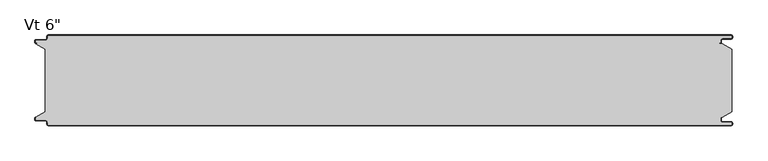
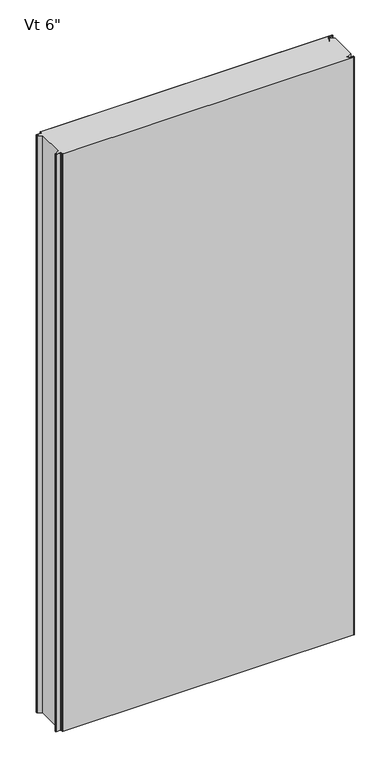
"""IFC4 building model written with IfcOpenShell, lengths in millimetres: plate geometry."""

from ifc_helpers import new_model, si_unit, frame, origin, place, context, project, spatial, polyline, circle_curve, source, transform, mapped, element, save
from ifc_brep_helpers import plane_surface, cylinder_surface, revolved_surface, advanced_brep


def plate_006a10f5(model_context):
    return source(origin(), model_context, "Body", "AdvancedBrep", [
        advanced_brep(
        [(-572.4125501, -149.4227194, 2400.0), (-570.4352761, -151.3999935, 2400.0), (574.5475652, -151.4, 2400.0), (576.5248337, -149.4227315, 2400.0), (576.5248337, -148.3806329, 2400.0), (574.5475652, -146.4033643, 2400.0), (560.3591802, -146.4033643, 2400.0), (557.7713036, -143.8154878, 2400.0), (557.7713036, -139.4950697, 2400.0), (557.1628365, -138.9060762, 2400.0), (554.7857432, -138.9060762, 2400.0), (554.7857432, -137.9066023, 2400.0), (560.2280123, -137.9066023, 2400.0), (576.2625, -128.6490865, 2400.0), (576.2625, -23.7509179, 2400.0), (560.2280123, -14.4933977, 2400.0), (554.7857432, -14.4933977, 2400.0), (554.7857432, -13.4939238, 2400.0), (557.1628365, -13.4939238, 2400.0), (557.7713036, -12.9049303, 2400.0), (557.7713036, -8.5845122, 2400.0), (560.3591802, -5.9966357, 2400.0), (574.5475652, -5.9966357, 2400.0), (576.5248337, -4.0193671, 2400.0), (576.5248337, -2.9772685, 2400.0), (574.5475652, -1.0, 2400.0), (-570.4352761, -1.0, 2400.0), (-572.4125501, -2.9772806, 2400.0), (-572.4125501, -5.2691705, 2400.0), (-576.3898173, -9.2464377, 2400.0), (-591.9862417, -9.2464377, 2400.0), (-592.5741186, -9.8343146, 2400.0), (-592.5741186, -12.9058635, 2400.0), (-591.986242, -13.4937402, 2400.0), (-589.6312064, -13.4937402, 2400.0), (-589.6312064, -14.4937402, 2400.0), (-591.9207851, -14.4937402, 2400.0), (-576.2625, -23.7509135, 2400.0), (-576.2625, -128.6490865, 2400.0), (-591.9207851, -137.9062598, 2400.0), (-589.6312064, -137.9062598, 2400.0), (-589.6312064, -138.9062598, 2400.0), (-591.986242, -138.9062598, 2400.0), (-592.5741186, -139.4941365, 2400.0), (-592.5741186, -142.5656854, 2400.0), (-591.9862417, -143.1535623, 2400.0), (-576.3898173, -143.1535623, 2400.0), (-572.4125501, -147.1308295, 2400.0), (-572.4125501, -149.4227194, 0.0), (-572.4125501, -147.1308295, 0.0), (-576.3898173, -143.1535623, 0.0), (-591.9862417, -143.1535623, 0.0), (-592.5741186, -142.5656854, 0.0), (-592.5741186, -139.4941365, 0.0), (-591.986242, -138.9062598, 0.0), (-589.6312064, -138.9062598, 0.0), (-589.6312064, -137.9062598, 0.0), (-591.9207851, -137.9062598, 0.0), (-576.2625, -128.6490865, 0.0), (-576.2625, -23.7509179, 0.0), (-591.9207851, -14.4937402, 0.0), (-589.6312064, -14.4937402, 0.0), (-589.6312064, -13.4937402, 0.0), (-591.986242, -13.4937402, 0.0), (-592.5741186, -12.9058635, 0.0), (-592.5741186, -9.8343146, 0.0), (-591.9862417, -9.2464377, 0.0), (-576.3898173, -9.2464377, 0.0), (-572.4125501, -5.2691705, 0.0), (-572.4125501, -2.9772806, 0.0), (-570.4352761, -1.0000065, 0.0), (574.5475652, -1.0, 0.0), (576.5248337, -2.9772685, 0.0), (576.5248337, -4.0193671, 0.0), (574.5475652, -5.9966357, 0.0), (560.3591802, -5.9966357, 0.0), (557.7713036, -8.5845122, 0.0), (557.7713036, -12.9049303, 0.0), (557.1628365, -13.4939238, 0.0), (554.7857432, -13.4939238, 0.0), (554.7857432, -14.4933977, 0.0), (560.2280123, -14.4933977, 0.0), (576.2625, -23.7509135, 0.0), (576.2625, -128.6490865, 0.0), (560.2280123, -137.9066023, 0.0), (554.7857432, -137.9066023, 0.0), (554.7857432, -138.9060762, 0.0), (557.1628365, -138.9060762, 0.0), (557.7713036, -139.4950697, 0.0), (557.7713036, -143.8154878, 0.0), (560.3591802, -146.4033643, 0.0), (574.5475652, -146.4033643, 0.0), (576.5248337, -148.3806329, 0.0), (576.5248337, -149.4227315, 0.0), (574.5475652, -151.4, 0.0), (-570.4352761, -151.4, 0.0)],
        [
            (0, 1, circle_curve(frame((-570.4352761, -149.4227194, 2400.0), z_axis=(0.0, 0.0, 1.0), x_axis=(-1.0, 0.0, 0.0)), 1.977274)),
            (1, 2),
            (2, 3, circle_curve(frame((574.5475652, -149.4227315, 2400.0), z_axis=(0.0, 0.0, 1.0), x_axis=(-1.0, 0.0, 0.0)), 1.9772685)),
            (3, 4),
            (4, 5, circle_curve(frame((574.5475652, -148.3806329, 2400.0), z_axis=(0.0, 0.0, 1.0), x_axis=(-1.0, 0.0, 0.0)), 1.9772685)),
            (5, 6),
            (6, 7, circle_curve(frame((560.3591802, -143.8154878, 2400.0), z_axis=(0.0, 0.0, -1.0), x_axis=(-1.0, 0.0, 0.0)), 2.5878765)),
            (7, 8),
            (8, 9, circle_curve(frame((557.1819985, -139.4950697, 2400.0), z_axis=(0.0, 0.0, 1.0), x_axis=(-1.0, 0.0, 0.0)), 0.5893051)),
            (9, 10),
            (10, 11),
            (11, 12),
            (12, 13),
            (13, 14),
            (14, 15),
            (15, 16),
            (16, 17),
            (17, 18),
            (18, 19, circle_curve(frame((557.1819985, -12.9049303, 2400.0), z_axis=(0.0, 0.0, 1.0), x_axis=(0.0, 1.0, 0.0)), 0.5893051)),
            (19, 20),
            (20, 21, circle_curve(frame((560.3591802, -8.5845122, 2400.0), z_axis=(0.0, 0.0, -1.0), x_axis=(0.0, 1.0, 0.0)), 2.5878765)),
            (21, 22),
            (22, 23, circle_curve(frame((574.5475652, -4.0193671, 2400.0), z_axis=(0.0, 0.0, 1.0), x_axis=(0.0, 1.0, 0.0)), 1.9772685)),
            (23, 24),
            (24, 25, circle_curve(frame((574.5475652, -2.9772685, 2400.0), z_axis=(0.0, 0.0, 1.0), x_axis=(0.0, 1.0, 0.0)), 1.9772685)),
            (25, 26),
            (26, 27, circle_curve(frame((-570.4352761, -2.9772806, 2400.0), z_axis=(0.0, 0.0, 1.0), x_axis=(0.0, 1.0, 0.0)), 1.977274)),
            (27, 28),
            (28, 29, circle_curve(frame((-576.3898173, -5.2691705, 2400.0), z_axis=(0.0, 0.0, -1.0), x_axis=(0.0, 1.0, 0.0)), 3.9772671)),
            (29, 30),
            (30, 31, circle_curve(frame((-591.9862417, -9.8343146, 2400.0), z_axis=(0.0, 0.0, 1.0), x_axis=(0.0, 1.0, 0.0)), 0.5878769)),
            (31, 32),
            (32, 33, circle_curve(frame((-591.986242, -12.9058635, 2400.0), z_axis=(0.0, 0.0, 1.0), x_axis=(0.0, 1.0, 0.0)), 0.5878766)),
            (33, 34),
            (34, 35),
            (35, 36),
            (36, 37),
            (37, 38),
            (38, 39),
            (39, 40),
            (40, 41),
            (41, 42),
            (42, 43, circle_curve(frame((-591.986242, -139.4941365, 2400.0), z_axis=(0.0, 0.0, 1.0), x_axis=(-1.0, 0.0, 0.0)), 0.5878766)),
            (43, 44),
            (44, 45, circle_curve(frame((-591.9862417, -142.5656854, 2400.0), z_axis=(0.0, 0.0, 1.0), x_axis=(-1.0, 0.0, 0.0)), 0.5878769)),
            (45, 46),
            (46, 47, circle_curve(frame((-576.3898173, -147.1308295, 2400.0), z_axis=(0.0, 0.0, -1.0), x_axis=(-1.0, 0.0, 0.0)), 3.9772671)),
            (47, 0),
            (48, 49),
            (49, 50, circle_curve(frame((-576.3898173, -147.1308295, 0.0), z_axis=(0.0, 0.0, 1.0), x_axis=(-1.0, 0.0, 0.0)), 3.9772671)),
            (50, 51),
            (51, 52, circle_curve(frame((-591.9862417, -142.5656854, 0.0), z_axis=(0.0, 0.0, -1.0), x_axis=(-1.0, 0.0, 0.0)), 0.5878769)),
            (52, 53),
            (53, 54, circle_curve(frame((-591.986242, -139.4941365, 0.0), z_axis=(0.0, 0.0, -1.0), x_axis=(-1.0, 0.0, 0.0)), 0.5878766)),
            (54, 55),
            (55, 56),
            (56, 57),
            (57, 58),
            (58, 59),
            (59, 60),
            (60, 61),
            (61, 62),
            (62, 63),
            (63, 64, circle_curve(frame((-591.986242, -12.9058635, 0.0), z_axis=(0.0, 0.0, -1.0), x_axis=(0.0, 1.0, 0.0)), 0.5878766)),
            (64, 65),
            (65, 66, circle_curve(frame((-591.9862417, -9.8343146, 0.0), z_axis=(0.0, 0.0, -1.0), x_axis=(0.0, 1.0, 0.0)), 0.5878769)),
            (66, 67),
            (67, 68, circle_curve(frame((-576.3898173, -5.2691705, 0.0), z_axis=(0.0, 0.0, 1.0), x_axis=(0.0, 1.0, 0.0)), 3.9772671)),
            (68, 69),
            (69, 70, circle_curve(frame((-570.4352761, -2.9772806, 0.0), z_axis=(0.0, 0.0, -1.0), x_axis=(0.0, 1.0, 0.0)), 1.977274)),
            (70, 71),
            (71, 72, circle_curve(frame((574.5475652, -2.9772685, 0.0), z_axis=(0.0, 0.0, -1.0), x_axis=(0.0, 1.0, 0.0)), 1.9772685)),
            (72, 73),
            (73, 74, circle_curve(frame((574.5475652, -4.0193671, 0.0), z_axis=(0.0, 0.0, -1.0), x_axis=(0.0, 1.0, 0.0)), 1.9772685)),
            (74, 75),
            (75, 76, circle_curve(frame((560.3591802, -8.5845122, 0.0), z_axis=(0.0, 0.0, 1.0), x_axis=(0.0, 1.0, 0.0)), 2.5878765)),
            (76, 77),
            (77, 78, circle_curve(frame((557.1819985, -12.9049303, 0.0), z_axis=(0.0, 0.0, -1.0), x_axis=(0.0, 1.0, 0.0)), 0.5893051)),
            (78, 79),
            (79, 80),
            (80, 81),
            (81, 82),
            (82, 83),
            (83, 84),
            (84, 85),
            (85, 86),
            (86, 87),
            (87, 88, circle_curve(frame((557.1819985, -139.4950697, 0.0), z_axis=(0.0, 0.0, -1.0), x_axis=(-1.0, 0.0, 0.0)), 0.5893051)),
            (88, 89),
            (89, 90, circle_curve(frame((560.3591802, -143.8154878, 0.0), z_axis=(0.0, 0.0, 1.0), x_axis=(-1.0, 0.0, 0.0)), 2.5878765)),
            (90, 91),
            (91, 92, circle_curve(frame((574.5475652, -148.3806329, 0.0), z_axis=(0.0, 0.0, -1.0), x_axis=(-1.0, 0.0, 0.0)), 1.9772685)),
            (92, 93),
            (93, 94, circle_curve(frame((574.5475652, -149.4227315, 0.0), z_axis=(0.0, 0.0, -1.0), x_axis=(-1.0, 0.0, 0.0)), 1.9772685)),
            (94, 95),
            (95, 48, circle_curve(frame((-570.4352761, -149.4227194, 0.0), z_axis=(0.0, 0.0, -1.0), x_axis=(-1.0, 0.0, 0.0)), 1.977274)),
            (37, 59),
            (58, 38),
            (13, 83),
            (82, 14),
            (47, 49),
            (48, 0),
            (46, 50),
            (45, 51),
            (44, 52),
            (43, 53),
            (42, 54),
            (41, 55),
            (40, 56),
            (39, 57),
            (12, 84),
            (11, 85),
            (10, 86),
            (9, 87),
            (8, 88),
            (7, 89),
            (6, 90),
            (5, 91),
            (4, 92),
            (3, 93),
            (2, 94),
            (1, 95),
            (26, 70),
            (69, 27),
            (25, 71),
            (24, 72),
            (23, 73),
            (22, 74),
            (21, 75),
            (20, 76),
            (19, 77),
            (18, 78),
            (17, 79),
            (16, 80),
            (15, 81),
            (36, 60),
            (35, 61),
            (34, 62),
            (33, 63),
            (32, 64),
            (31, 65),
            (30, 66),
            (29, 67),
            (28, 68),
        ],
        [
            plane_surface(frame((0.0, -151.4, 2400.0), z_axis=(0.0, 0.0, 1.0), x_axis=(0.0, -1.0, 0.0))),
            plane_surface(frame((0.0, -151.4, 0.0), z_axis=(0.0, 0.0, -1.0), x_axis=(0.0, -1.0, 0.0))),
            plane_surface(frame((-576.2625, -128.6490865, 2400.0), z_axis=(-1.0, 0.0, 0.0), x_axis=(0.0, 0.0, -1.0))),
            plane_surface(frame((576.2625, -23.7509179, 2400.0), z_axis=(1.0, 0.0, 0.0), x_axis=(0.0, 0.0, -1.0))),
            plane_surface(frame((-572.4125501, -149.4227194, 2400.0), z_axis=(-1.0, 0.0, 0.0), x_axis=(0.0, 0.0, -1.0))),
            revolved_surface(polyline([(-580.3670844, -147.1308295, 0.0), (-580.3670844, -147.1308295, 2400.0)]), (-576.3898173, -147.1308295, 2400.0), (0.0, 0.0, -1.0)),
            plane_surface(frame((-576.3898173, -143.1535623, 2400.0), z_axis=(0.0, -1.0, 0.0), x_axis=(0.0, 0.0, -1.0))),
            cylinder_surface(frame((-591.9862417, -142.5656854, 2400.0), z_axis=(0.0, 0.0, 1.0), x_axis=(-1.0, 0.0, 0.0)), 0.5878769),
            plane_surface(frame((-592.5741186, -142.5656854, 2400.0), z_axis=(-1.0, 0.0, 0.0), x_axis=(0.0, 0.0, -1.0))),
            cylinder_surface(frame((-591.986242, -139.4941365, 2400.0), z_axis=(0.0, 0.0, 1.0), x_axis=(-1.0, 0.0, 0.0)), 0.5878766),
            plane_surface(frame((-591.986242, -138.9062598, 2400.0), z_axis=(0.0, 1.0, 0.0), x_axis=(0.0, 0.0, -1.0))),
            plane_surface(frame((-589.6312064, -138.9062598, 2400.0), z_axis=(-1.0, 0.0, 0.0), x_axis=(0.0, 0.0, -1.0))),
            plane_surface(frame((-589.6312064, -137.9062598, 2400.0), z_axis=(0.0, -1.0, 0.0), x_axis=(0.0, 0.0, -1.0))),
            plane_surface(frame((-591.9207851, -137.9062598, 2400.0), z_axis=(-0.5089147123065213, 0.860816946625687, 0.0), x_axis=(0.0, 0.0, -1.0))),
            plane_surface(frame((576.2625, -128.6490865, 2400.0), z_axis=(0.500000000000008, -0.866025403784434, 0.0), x_axis=(0.0, 0.0, -1.0))),
            plane_surface(frame((560.2280123, -137.9066023, 2400.0), z_axis=(0.0, -1.0, 0.0), x_axis=(0.0, 0.0, -1.0))),
            plane_surface(frame((554.7857432, -137.9066023, 2400.0), z_axis=(1.0, 0.0, 0.0), x_axis=(0.0, 0.0, -1.0))),
            plane_surface(frame((554.7857432, -138.9060762, 2400.0), z_axis=(0.0, 1.0, 0.0), x_axis=(0.0, 0.0, -1.0))),
            cylinder_surface(frame((557.1819985, -139.4950697, 2400.0), z_axis=(0.0, 0.0, 1.0), x_axis=(-1.0, 0.0, 0.0)), 0.5893051),
            plane_surface(frame((557.7713036, -139.4950697, 2400.0), z_axis=(1.0, 0.0, 0.0), x_axis=(0.0, 0.0, -1.0))),
            revolved_surface(polyline([(557.7713037, -143.8154878, 0.0), (557.7713037, -143.8154878, 2400.0)]), (560.3591802, -143.8154878, 2400.0), (0.0, 0.0, -1.0)),
            plane_surface(frame((560.3591802, -146.4033643, 2400.0), z_axis=(0.0, 1.0, 0.0), x_axis=(0.0, 0.0, -1.0))),
            cylinder_surface(frame((574.5475652, -148.3806329, 2400.0), z_axis=(0.0, 0.0, 1.0), x_axis=(-1.0, 0.0, 0.0)), 1.9772685),
            plane_surface(frame((576.5248337, -148.3806329, 2400.0), z_axis=(1.0, 0.0, 0.0), x_axis=(0.0, 0.0, -1.0))),
            cylinder_surface(frame((574.5475652, -149.4227315, 2400.0), z_axis=(0.0, 0.0, 1.0), x_axis=(-1.0, 0.0, 0.0)), 1.9772685),
            plane_surface(frame((574.5475652, -151.4, 2400.0), z_axis=(0.0, -1.0, 0.0), x_axis=(0.0, 0.0, -1.0))),
            cylinder_surface(frame((-570.4352761, -149.4227194, 2400.0), z_axis=(0.0, 0.0, 1.0), x_axis=(-1.0, 0.0, 0.0)), 1.977274),
            cylinder_surface(frame((-570.4352761, -2.9772806, 2400.0), z_axis=(0.0, 0.0, 1.0), x_axis=(0.0, 1.0, 0.0)), 1.977274),
            plane_surface(frame((-570.4352761, -1.0, 2400.0), z_axis=(0.0, 1.0, 0.0), x_axis=(0.0, 0.0, -1.0))),
            cylinder_surface(frame((574.5475652, -2.9772685, 2400.0), z_axis=(0.0, 0.0, 1.0), x_axis=(0.0, 1.0, 0.0)), 1.9772685),
            plane_surface(frame((576.5248337, -2.9772685, 2400.0), z_axis=(1.0, 0.0, 0.0), x_axis=(0.0, 0.0, -1.0))),
            cylinder_surface(frame((574.5475652, -4.0193671, 2400.0), z_axis=(0.0, 0.0, 1.0), x_axis=(0.0, 1.0, 0.0)), 1.9772685),
            plane_surface(frame((574.5475652, -5.9966357, 2400.0), z_axis=(0.0, -1.0, 0.0), x_axis=(0.0, 0.0, -1.0))),
            revolved_surface(polyline([(560.3591802, -5.996635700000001, 0.0), (560.3591802, -5.996635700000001, 2400.0)]), (560.3591802, -8.5845122, 2400.0), (0.0, 0.0, -1.0)),
            plane_surface(frame((557.7713036, -8.5845122, 2400.0), z_axis=(1.0, 0.0, 0.0), x_axis=(0.0, 0.0, -1.0))),
            cylinder_surface(frame((557.1819985, -12.9049303, 2400.0), z_axis=(0.0, 0.0, 1.0), x_axis=(0.0, 1.0, 0.0)), 0.5893051),
            plane_surface(frame((557.1628365, -13.4939238, 2400.0), z_axis=(0.0, -1.0, 0.0), x_axis=(0.0, 0.0, -1.0))),
            plane_surface(frame((554.7857432, -13.4939238, 2400.0), z_axis=(1.0, 0.0, 0.0), x_axis=(0.0, 0.0, -1.0))),
            plane_surface(frame((554.7857432, -14.4933977, 2400.0), z_axis=(0.0, 1.0, 0.0), x_axis=(0.0, 0.0, -1.0))),
            plane_surface(frame((560.2280123, -14.4933977, 2400.0), z_axis=(0.5000000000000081, 0.866025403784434, 0.0), x_axis=(0.0, 0.0, -1.0))),
            plane_surface(frame((-576.2625, -23.7509135, 2400.0), z_axis=(-0.5089147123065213, -0.860816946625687, 0.0), x_axis=(0.0, 0.0, -1.0))),
            plane_surface(frame((-591.9207851, -14.4937402, 2400.0), z_axis=(0.0, 1.0, 0.0), x_axis=(0.0, 0.0, -1.0))),
            plane_surface(frame((-589.6312064, -14.4937402, 2400.0), z_axis=(-1.0, 0.0, 0.0), x_axis=(0.0, 0.0, -1.0))),
            plane_surface(frame((-589.6312064, -13.4937402, 2400.0), z_axis=(0.0, -1.0, 0.0), x_axis=(0.0, 0.0, -1.0))),
            cylinder_surface(frame((-591.986242, -12.9058635, 2400.0), z_axis=(0.0, 0.0, 1.0), x_axis=(0.0, 1.0, 0.0)), 0.5878766),
            plane_surface(frame((-592.5741186, -12.9058635, 2400.0), z_axis=(-1.0, 0.0, 0.0), x_axis=(0.0, 0.0, -1.0))),
            cylinder_surface(frame((-591.9862417, -9.8343146, 2400.0), z_axis=(0.0, 0.0, 1.0), x_axis=(0.0, 1.0, 0.0)), 0.5878769),
            plane_surface(frame((-591.9862417, -9.2464377, 2400.0), z_axis=(0.0, 1.0, 0.0), x_axis=(0.0, 0.0, -1.0))),
            revolved_surface(polyline([(-576.3898173, -1.2919034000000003, 0.0), (-576.3898173, -1.2919034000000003, 2400.0)]), (-576.3898173, -5.2691705, 2400.0), (0.0, 0.0, -1.0)),
            plane_surface(frame((-572.4125501, -5.2691705, 2400.0), z_axis=(-1.0, 0.0, 0.0), x_axis=(0.0, 0.0, -1.0))),
        ],
        [
            (0, [[1, 2, 3, 4, 5, 6, 7, 8, 9, 10, 11, 12, 13, 14, 15, 16, 17, 18, 19, 20, 21, 22, 23, 24, 25, 26, 27, 28, 29, 30, 31, 32, 33, 34, 35, 36, 37, 38, 39, 40, 41, 42, 43, 44, 45, 46, 47, 48]]),
            (1, [[49, 50, 51, 52, 53, 54, 55, 56, 57, 58, 59, 60, 61, 62, 63, 64, 65, 66, 67, 68, 69, 70, 71, 72, 73, 74, 75, 76, 77, 78, 79, 80, 81, 82, 83, 84, 85, 86, 87, 88, 89, 90, 91, 92, 93, 94, 95, 96]]),
            (2, [[97, -59, 98, -38]]),
            (3, [[99, -83, 100, -14]]),
            (4, [[101, -49, 102, -48]]),
            (5, [[103, -50, -101, -47]]),
            (6, [[104, -51, -103, -46]]),
            (7, [[105, -52, -104, -45]]),
            (8, [[106, -53, -105, -44]]),
            (9, [[107, -54, -106, -43]]),
            (10, [[108, -55, -107, -42]]),
            (11, [[109, -56, -108, -41]]),
            (12, [[110, -57, -109, -40]]),
            (13, [[-98, -58, -110, -39]]),
            (14, [[111, -84, -99, -13]]),
            (15, [[112, -85, -111, -12]]),
            (16, [[113, -86, -112, -11]]),
            (17, [[114, -87, -113, -10]]),
            (18, [[115, -88, -114, -9]]),
            (19, [[116, -89, -115, -8]]),
            (20, [[117, -90, -116, -7]]),
            (21, [[118, -91, -117, -6]]),
            (22, [[119, -92, -118, -5]]),
            (23, [[120, -93, -119, -4]]),
            (24, [[121, -94, -120, -3]]),
            (25, [[122, -95, -121, -2]]),
            (26, [[-102, -96, -122, -1]]),
            (27, [[123, -70, 124, -27]]),
            (28, [[125, -71, -123, -26]]),
            (29, [[126, -72, -125, -25]]),
            (30, [[127, -73, -126, -24]]),
            (31, [[128, -74, -127, -23]]),
            (32, [[129, -75, -128, -22]]),
            (33, [[130, -76, -129, -21]]),
            (34, [[131, -77, -130, -20]]),
            (35, [[132, -78, -131, -19]]),
            (36, [[133, -79, -132, -18]]),
            (37, [[134, -80, -133, -17]]),
            (38, [[135, -81, -134, -16]]),
            (39, [[-100, -82, -135, -15]]),
            (40, [[136, -60, -97, -37]]),
            (41, [[137, -61, -136, -36]]),
            (42, [[138, -62, -137, -35]]),
            (43, [[139, -63, -138, -34]]),
            (44, [[140, -64, -139, -33]]),
            (45, [[141, -65, -140, -32]]),
            (46, [[142, -66, -141, -31]]),
            (47, [[143, -67, -142, -30]]),
            (48, [[144, -68, -143, -29]]),
            (49, [[-124, -69, -144, -28]]),
        ],
    ),
        advanced_brep(
        [(-572.4123937, -2.9776189, 2400.0), (-570.4354837, -1.0007088, 2400.0), (574.550337, -1.0007088, 2400.0), (576.5262182, -2.97659, 2400.0), (576.5262182, -4.019022, 2400.0), (574.5482568, -5.9969834, 2400.0), (560.3590971, -5.9969834, 2400.0), (557.7713971, -8.5846834, 2400.0), (557.7713971, -12.9049158, 2400.0), (557.1628599, -13.4939528, 2400.0), (554.7857432, -13.4939528, 2400.0), (554.7857432, -14.4933977, 2400.0), (557.1304042, -14.4933977, 2400.0), (558.7713036, -12.9049303, 2400.0), (558.7713036, -8.5845122, 2400.0), (560.3591801, -6.9966356, 2400.0), (574.5475652, -6.9966356, 2400.0), (577.5248337, -4.0193671, 2400.0), (577.5248337, -2.9772685, 2400.0), (574.5475652, 0.0, 2400.0), (-570.4352789, 0.0, 2400.0), (-573.4125474, -2.977286, 2400.0), (-573.4125474, -5.2691698, 2400.0), (-576.3898159, -8.2464384, 2400.0), (-591.9862419, -8.2464384, 2400.0), (-593.5741185, -9.8343149, 2400.0), (-593.5741185, -12.9058636, 2400.0), (-591.9862419, -14.4937401, 2400.0), (-589.6312064, -14.4937401, 2400.0), (-589.6312064, -13.4937365, 2400.0), (-591.9862374, -13.4937365, 2400.0), (-592.5741086, -12.9058654, 2400.0), (-592.5741086, -9.834334, 2400.0), (-591.9862514, -9.2464768, 2400.0), (-576.3897391, -9.2464768, 2400.0), (-572.4123937, -5.2691315, 2400.0), (-572.4123937, -2.9776189, 0.0), (-572.4123937, -5.2691315, 0.0), (-576.3897391, -9.2464768, 0.0), (-591.9862514, -9.2464768, 0.0), (-592.5741086, -9.834334, 0.0), (-592.5741086, -12.9058654, 0.0), (-591.9862374, -13.4937365, 0.0), (-589.6312064, -13.4937365, 0.0), (-589.6312064, -14.4937401, 0.0), (-591.9862419, -14.4937401, 0.0), (-593.5741185, -12.9058636, 0.0), (-593.5741185, -9.8343149, 0.0), (-591.9862419, -8.2464384, 0.0), (-576.3898159, -8.2464384, 0.0), (-573.4125474, -5.2691698, 0.0), (-573.4125474, -2.977286, 0.0), (-570.4352789, -1.75e-05, 0.0), (574.5475652, 0.0, 0.0), (577.5248337, -2.9772685, 0.0), (577.5248337, -4.0193671, 0.0), (574.5475652, -6.9966356, 0.0), (560.3591801, -6.9966356, 0.0), (558.7713036, -8.5845122, 0.0), (558.7713036, -12.9049303, 0.0), (557.1304042, -14.4933977, 0.0), (554.7857432, -14.4933977, 0.0), (554.7857432, -13.4939528, 0.0), (557.1628599, -13.4939528, 0.0), (557.7713971, -12.9049158, 0.0), (557.7713971, -8.5846834, 0.0), (560.3590971, -5.9969834, 0.0), (574.5482568, -5.9969834, 0.0), (576.5262182, -4.019022, 0.0), (576.5262182, -2.97659, 0.0), (574.550337, -1.0007088, 0.0), (-570.4354837, -1.0007088, 0.0)],
        [
            (0, 1, circle_curve(frame((-570.4354837, -2.9776189, 2400.0), z_axis=(0.0, 0.0, -1.0), x_axis=(0.0, 1.0, 0.0)), 1.9769101)),
            (1, 2),
            (2, 3, circle_curve(frame((574.550337, -2.97659, 2400.0), z_axis=(0.0, 0.0, -1.0), x_axis=(0.0, 1.0, 0.0)), 1.9758812)),
            (3, 4),
            (4, 5, circle_curve(frame((574.5482568, -4.019022, 2400.0), z_axis=(0.0, 0.0, -1.0), x_axis=(0.0, 1.0, 0.0)), 1.9779614)),
            (5, 6),
            (6, 7, circle_curve(frame((560.3590971, -8.5846834, 2400.0), z_axis=(0.0, 0.0, 1.0), x_axis=(0.0, 1.0, 0.0)), 2.5877)),
            (7, 8),
            (8, 9, circle_curve(frame((557.1820477, -12.9049158, 2400.0), z_axis=(0.0, 0.0, -1.0), x_axis=(0.0, 1.0, 0.0)), 0.5893495)),
            (9, 10),
            (10, 11),
            (11, 12),
            (12, 13, circle_curve(frame((557.1819985, -12.9049303, 2400.0), z_axis=(0.0, 0.0, 1.0), x_axis=(0.0, 1.0, 0.0)), 1.5893051)),
            (13, 14),
            (14, 15, circle_curve(frame((560.3591801, -8.5845122, 2400.0), z_axis=(0.0, 0.0, -1.0), x_axis=(0.0, 1.0, 0.0)), 1.5878765)),
            (15, 16),
            (16, 17, circle_curve(frame((574.5475652, -4.0193671, 2400.0), z_axis=(0.0, 0.0, 1.0), x_axis=(0.0, 1.0, 0.0)), 2.9772685)),
            (17, 18),
            (18, 19, circle_curve(frame((574.5475652, -2.9772685, 2400.0), z_axis=(0.0, 0.0, 1.0), x_axis=(0.0, 1.0, 0.0)), 2.9772685)),
            (19, 20),
            (20, 21, circle_curve(frame((-570.4352789, -2.977286, 2400.0), z_axis=(0.0, 0.0, 1.0), x_axis=(0.0, 1.0, 0.0)), 2.9772685)),
            (21, 22),
            (22, 23, circle_curve(frame((-576.3898159, -5.2691698, 2400.0), z_axis=(0.0, 0.0, -1.0), x_axis=(0.0, 1.0, 0.0)), 2.9772685)),
            (23, 24),
            (24, 25, circle_curve(frame((-591.9862419, -9.8343149, 2400.0), z_axis=(0.0, 0.0, 1.0), x_axis=(0.0, 1.0, 0.0)), 1.5878765)),
            (25, 26),
            (26, 27, circle_curve(frame((-591.9862419, -12.9058636, 2400.0), z_axis=(0.0, 0.0, 1.0), x_axis=(0.0, 1.0, 0.0)), 1.5878765)),
            (27, 28),
            (28, 29),
            (29, 30),
            (30, 31, circle_curve(frame((-591.9862374, -12.9058654, 2400.0), z_axis=(0.0, 0.0, -1.0), x_axis=(0.0, 1.0, 0.0)), 0.5878711)),
            (31, 32),
            (32, 33, circle_curve(frame((-591.9862514, -9.834334, 2400.0), z_axis=(0.0, 0.0, -1.0), x_axis=(0.0, 1.0, 0.0)), 0.5878572)),
            (33, 34),
            (34, 35, circle_curve(frame((-576.3897391, -5.2691315, 2400.0), z_axis=(0.0, 0.0, 1.0), x_axis=(0.0, 1.0, 0.0)), 3.9773454)),
            (35, 0),
            (36, 37),
            (37, 38, circle_curve(frame((-576.3897391, -5.2691315, 0.0), z_axis=(0.0, 0.0, -1.0), x_axis=(0.0, 1.0, 0.0)), 3.9773454)),
            (38, 39),
            (39, 40, circle_curve(frame((-591.9862514, -9.834334, 0.0), z_axis=(0.0, 0.0, 1.0), x_axis=(0.0, 1.0, 0.0)), 0.5878572)),
            (40, 41),
            (41, 42, circle_curve(frame((-591.9862374, -12.9058654, 0.0), z_axis=(0.0, 0.0, 1.0), x_axis=(0.0, 1.0, 0.0)), 0.5878711)),
            (42, 43),
            (43, 44),
            (44, 45),
            (45, 46, circle_curve(frame((-591.9862419, -12.9058636, 0.0), z_axis=(0.0, 0.0, -1.0), x_axis=(0.0, 1.0, 0.0)), 1.5878765)),
            (46, 47),
            (47, 48, circle_curve(frame((-591.9862419, -9.8343149, 0.0), z_axis=(0.0, 0.0, -1.0), x_axis=(0.0, 1.0, 0.0)), 1.5878765)),
            (48, 49),
            (49, 50, circle_curve(frame((-576.3898159, -5.2691698, 0.0), z_axis=(0.0, 0.0, 1.0), x_axis=(0.0, 1.0, 0.0)), 2.9772685)),
            (50, 51),
            (51, 52, circle_curve(frame((-570.4352789, -2.977286, 0.0), z_axis=(0.0, 0.0, -1.0), x_axis=(0.0, 1.0, 0.0)), 2.9772685)),
            (52, 53),
            (53, 54, circle_curve(frame((574.5475652, -2.9772685, 0.0), z_axis=(0.0, 0.0, -1.0), x_axis=(0.0, 1.0, 0.0)), 2.9772685)),
            (54, 55),
            (55, 56, circle_curve(frame((574.5475652, -4.0193671, 0.0), z_axis=(0.0, 0.0, -1.0), x_axis=(0.0, 1.0, 0.0)), 2.9772685)),
            (56, 57),
            (57, 58, circle_curve(frame((560.3591801, -8.5845122, 0.0), z_axis=(0.0, 0.0, 1.0), x_axis=(0.0, 1.0, 0.0)), 1.5878765)),
            (58, 59),
            (59, 60, circle_curve(frame((557.1819985, -12.9049303, 0.0), z_axis=(0.0, 0.0, -1.0), x_axis=(0.0, 1.0, 0.0)), 1.5893051)),
            (60, 61),
            (61, 62),
            (62, 63),
            (63, 64, circle_curve(frame((557.1820477, -12.9049158, 0.0), z_axis=(0.0, 0.0, 1.0), x_axis=(0.0, 1.0, 0.0)), 0.5893495)),
            (64, 65),
            (65, 66, circle_curve(frame((560.3590971, -8.5846834, 0.0), z_axis=(0.0, 0.0, -1.0), x_axis=(0.0, 1.0, 0.0)), 2.5877)),
            (66, 67),
            (67, 68, circle_curve(frame((574.5482568, -4.019022, 0.0), z_axis=(0.0, 0.0, 1.0), x_axis=(0.0, 1.0, 0.0)), 1.9779614)),
            (68, 69),
            (69, 70, circle_curve(frame((574.550337, -2.97659, 0.0), z_axis=(0.0, 0.0, 1.0), x_axis=(0.0, 1.0, 0.0)), 1.9758812)),
            (70, 71),
            (71, 36, circle_curve(frame((-570.4354837, -2.9776189, 0.0), z_axis=(0.0, 0.0, 1.0), x_axis=(0.0, 1.0, 0.0)), 1.9769101)),
            (35, 37),
            (36, 0),
            (34, 38),
            (33, 39),
            (32, 40),
            (31, 41),
            (30, 42),
            (29, 43),
            (28, 44),
            (27, 45),
            (26, 46),
            (25, 47),
            (24, 48),
            (23, 49),
            (22, 50),
            (21, 51),
            (20, 52),
            (19, 53),
            (18, 54),
            (17, 55),
            (16, 56),
            (15, 57),
            (14, 58),
            (13, 59),
            (12, 60),
            (11, 61),
            (10, 62),
            (9, 63),
            (8, 64),
            (7, 65),
            (6, 66),
            (5, 67),
            (4, 68),
            (3, 69),
            (2, 70),
            (1, 71),
        ],
        [
            plane_surface(frame((0.0, 0.0, 2400.0), z_axis=(0.0, 0.0, 1.0), x_axis=(0.0, 1.0, 0.0))),
            plane_surface(frame((0.0, 0.0, 0.0), z_axis=(0.0, 0.0, -1.0), x_axis=(0.0, 1.0, 0.0))),
            plane_surface(frame((-572.4123937, -2.9776189, 2400.0), z_axis=(1.0, 0.0, 0.0), x_axis=(0.0, 0.0, -1.0))),
            cylinder_surface(frame((-576.3897391, -5.2691315, 2400.0), z_axis=(0.0, 0.0, 1.0), x_axis=(0.0, 1.0, 0.0)), 3.9773454),
            plane_surface(frame((-576.3897391, -9.2464768, 2400.0), z_axis=(0.0, -1.0, 0.0), x_axis=(0.0, 0.0, -1.0))),
            revolved_surface(polyline([(-591.9862514, -9.2464768, 0.0), (-591.9862514, -9.2464768, 2400.0)]), (-591.9862514, -9.834334, 2400.0), (0.0, 0.0, -1.0)),
            plane_surface(frame((-592.5741086, -9.834334, 2400.0), z_axis=(1.0, 0.0, 0.0), x_axis=(0.0, 0.0, -1.0))),
            revolved_surface(polyline([(-591.9862374, -12.3179943, 0.0), (-591.9862374, -12.3179943, 2400.0)]), (-591.9862374, -12.9058654, 2400.0), (0.0, 0.0, -1.0)),
            plane_surface(frame((-591.9862374, -13.4937365, 2400.0), z_axis=(0.0, 1.0, 0.0), x_axis=(0.0, 0.0, -1.0))),
            plane_surface(frame((-589.6312064, -13.4937365, 2400.0), z_axis=(1.0, 0.0, 0.0), x_axis=(0.0, 0.0, -1.0))),
            plane_surface(frame((-589.6312064, -14.4937401, 2400.0), z_axis=(0.0, -1.0, 0.0), x_axis=(0.0, 0.0, -1.0))),
            cylinder_surface(frame((-591.9862419, -12.9058636, 2400.0), z_axis=(0.0, 0.0, 1.0), x_axis=(0.0, 1.0, 0.0)), 1.5878765),
            plane_surface(frame((-593.5741185, -12.9058636, 2400.0), z_axis=(-1.0, 0.0, 0.0), x_axis=(0.0, 0.0, -1.0))),
            cylinder_surface(frame((-591.9862419, -9.8343149, 2400.0), z_axis=(0.0, 0.0, 1.0), x_axis=(0.0, 1.0, 0.0)), 1.5878765),
            plane_surface(frame((-591.9862419, -8.2464384, 2400.0), z_axis=(0.0, 1.0, 0.0), x_axis=(0.0, 0.0, -1.0))),
            revolved_surface(polyline([(-576.3898159, -2.2919013, 0.0), (-576.3898159, -2.2919013, 2400.0)]), (-576.3898159, -5.2691698, 2400.0), (0.0, 0.0, -1.0)),
            plane_surface(frame((-573.4125474, -5.2691698, 2400.0), z_axis=(-1.0, 0.0, 0.0), x_axis=(0.0, 0.0, -1.0))),
            cylinder_surface(frame((-570.4352789, -2.977286, 2400.0), z_axis=(0.0, 0.0, 1.0), x_axis=(0.0, 1.0, 0.0)), 2.9772685),
            plane_surface(frame((-570.4352789, 0.0, 2400.0), z_axis=(0.0, 1.0, 0.0), x_axis=(0.0, 0.0, -1.0))),
            cylinder_surface(frame((574.5475652, -2.9772685, 2400.0), z_axis=(0.0, 0.0, 1.0), x_axis=(0.0, 1.0, 0.0)), 2.9772685),
            plane_surface(frame((577.5248337, -2.9772685, 2400.0), z_axis=(1.0, 0.0, 0.0), x_axis=(0.0, 0.0, -1.0))),
            cylinder_surface(frame((574.5475652, -4.0193671, 2400.0), z_axis=(0.0, 0.0, 1.0), x_axis=(0.0, 1.0, 0.0)), 2.9772685),
            plane_surface(frame((574.5475652, -6.9966356, 2400.0), z_axis=(0.0, -1.0, 0.0), x_axis=(0.0, 0.0, -1.0))),
            revolved_surface(polyline([(560.3591801, -6.996635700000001, 0.0), (560.3591801, -6.996635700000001, 2400.0)]), (560.3591801, -8.5845122, 2400.0), (0.0, 0.0, -1.0)),
            plane_surface(frame((558.7713036, -8.5845122, 2400.0), z_axis=(1.0, 0.0, 0.0), x_axis=(0.0, 0.0, -1.0))),
            cylinder_surface(frame((557.1819985, -12.9049303, 2400.0), z_axis=(0.0, 0.0, 1.0), x_axis=(0.0, 1.0, 0.0)), 1.5893051),
            plane_surface(frame((557.1304042, -14.4933977, 2400.0), z_axis=(0.0, -1.0, 0.0), x_axis=(0.0, 0.0, -1.0))),
            plane_surface(frame((554.7857432, -14.4933977, 2400.0), z_axis=(-1.0, 0.0, 0.0), x_axis=(0.0, 0.0, -1.0))),
            plane_surface(frame((554.7857432, -13.4939528, 2400.0), z_axis=(0.0, 1.0, 0.0), x_axis=(0.0, 0.0, -1.0))),
            revolved_surface(polyline([(557.1820477, -12.3155663, 0.0), (557.1820477, -12.3155663, 2400.0)]), (557.1820477, -12.9049158, 2400.0), (0.0, 0.0, -1.0)),
            plane_surface(frame((557.7713971, -12.9049158, 2400.0), z_axis=(-1.0, 0.0, 0.0), x_axis=(0.0, 0.0, -1.0))),
            cylinder_surface(frame((560.3590971, -8.5846834, 2400.0), z_axis=(0.0, 0.0, 1.0), x_axis=(0.0, 1.0, 0.0)), 2.5877),
            plane_surface(frame((560.3590971, -5.9969834, 2400.0), z_axis=(0.0, 1.0, 0.0), x_axis=(0.0, 0.0, -1.0))),
            revolved_surface(polyline([(574.5482568, -2.0410606, 0.0), (574.5482568, -2.0410606, 2400.0)]), (574.5482568, -4.019022, 2400.0), (0.0, 0.0, -1.0)),
            plane_surface(frame((576.5262182, -4.019022, 2400.0), z_axis=(-1.0, 0.0, 0.0), x_axis=(0.0, 0.0, -1.0))),
            revolved_surface(polyline([(574.550337, -1.0007088, 0.0), (574.550337, -1.0007088, 2400.0)]), (574.550337, -2.97659, 2400.0), (0.0, 0.0, -1.0)),
            plane_surface(frame((574.550337, -1.0007088, 2400.0), z_axis=(0.0, -1.0, 0.0), x_axis=(0.0, 0.0, -1.0))),
            revolved_surface(polyline([(-570.4354837, -1.0007088, 0.0), (-570.4354837, -1.0007088, 2400.0)]), (-570.4354837, -2.9776189, 2400.0), (0.0, 0.0, -1.0)),
        ],
        [
            (0, [[1, 2, 3, 4, 5, 6, 7, 8, 9, 10, 11, 12, 13, 14, 15, 16, 17, 18, 19, 20, 21, 22, 23, 24, 25, 26, 27, 28, 29, 30, 31, 32, 33, 34, 35, 36]]),
            (1, [[37, 38, 39, 40, 41, 42, 43, 44, 45, 46, 47, 48, 49, 50, 51, 52, 53, 54, 55, 56, 57, 58, 59, 60, 61, 62, 63, 64, 65, 66, 67, 68, 69, 70, 71, 72]]),
            (2, [[73, -37, 74, -36]]),
            (3, [[75, -38, -73, -35]]),
            (4, [[76, -39, -75, -34]]),
            (5, [[77, -40, -76, -33]]),
            (6, [[78, -41, -77, -32]]),
            (7, [[79, -42, -78, -31]]),
            (8, [[80, -43, -79, -30]]),
            (9, [[81, -44, -80, -29]]),
            (10, [[82, -45, -81, -28]]),
            (11, [[83, -46, -82, -27]]),
            (12, [[84, -47, -83, -26]]),
            (13, [[85, -48, -84, -25]]),
            (14, [[86, -49, -85, -24]]),
            (15, [[87, -50, -86, -23]]),
            (16, [[88, -51, -87, -22]]),
            (17, [[89, -52, -88, -21]]),
            (18, [[90, -53, -89, -20]]),
            (19, [[91, -54, -90, -19]]),
            (20, [[92, -55, -91, -18]]),
            (21, [[93, -56, -92, -17]]),
            (22, [[94, -57, -93, -16]]),
            (23, [[95, -58, -94, -15]]),
            (24, [[96, -59, -95, -14]]),
            (25, [[97, -60, -96, -13]]),
            (26, [[98, -61, -97, -12]]),
            (27, [[99, -62, -98, -11]]),
            (28, [[100, -63, -99, -10]]),
            (29, [[101, -64, -100, -9]]),
            (30, [[102, -65, -101, -8]]),
            (31, [[103, -66, -102, -7]]),
            (32, [[104, -67, -103, -6]]),
            (33, [[105, -68, -104, -5]]),
            (34, [[106, -69, -105, -4]]),
            (35, [[107, -70, -106, -3]]),
            (36, [[108, -71, -107, -2]]),
            (37, [[-74, -72, -108, -1]]),
        ],
    ),
        advanced_brep(
        [(-572.4123937, -149.4223811, 2400.0), (-572.4123937, -147.1308685, 2400.0), (-576.3897391, -143.1535232, 2400.0), (-591.9862514, -143.1535232, 2400.0), (-592.5741086, -142.565666, 2400.0), (-592.5741086, -139.4941346, 2400.0), (-591.9862374, -138.9062635, 2400.0), (-589.6312064, -138.9062635, 2400.0), (-589.6312064, -137.9062599, 2400.0), (-591.9862419, -137.9062599, 2400.0), (-593.5741185, -139.4941364, 2400.0), (-593.5741185, -142.5656851, 2400.0), (-591.9862419, -144.1535616, 2400.0), (-576.3898159, -144.1535616, 2400.0), (-573.4125474, -147.1308302, 2400.0), (-573.4125474, -149.422714, 2400.0), (-570.4352789, -152.3999825, 2400.0), (574.5475652, -152.4, 2400.0), (577.5248337, -149.4227315, 2400.0), (577.5248337, -148.3806329, 2400.0), (574.5475652, -145.4033644, 2400.0), (560.3591801, -145.4033644, 2400.0), (558.7713036, -143.8154878, 2400.0), (558.7713036, -139.4950697, 2400.0), (557.1304042, -137.9066023, 2400.0), (554.7857432, -137.9066023, 2400.0), (554.7857432, -138.9060472, 2400.0), (557.1628599, -138.9060472, 2400.0), (557.7713971, -139.4950842, 2400.0), (557.7713971, -143.8153166, 2400.0), (560.3590971, -146.4030166, 2400.0), (574.5482568, -146.4030166, 2400.0), (576.5262182, -148.380978, 2400.0), (576.5262182, -149.42341, 2400.0), (574.550337, -151.3992912, 2400.0), (-570.4354837, -151.3992912, 2400.0), (-572.4123937, -149.4223811, 0.0), (-570.4354837, -151.3992912, 0.0), (574.550337, -151.3992912, 0.0), (576.5262182, -149.42341, 0.0), (576.5262182, -148.380978, 0.0), (574.5482568, -146.4030166, 0.0), (560.3590971, -146.4030166, 0.0), (557.7713971, -143.8153166, 0.0), (557.7713971, -139.4950842, 0.0), (557.1628599, -138.9060472, 0.0), (554.7857432, -138.9060472, 0.0), (554.7857432, -137.9066023, 0.0), (557.1304042, -137.9066023, 0.0), (558.7713036, -139.4950697, 0.0), (558.7713036, -143.8154878, 0.0), (560.3591801, -145.4033644, 0.0), (574.5475652, -145.4033644, 0.0), (577.5248337, -148.3806329, 0.0), (577.5248337, -149.4227315, 0.0), (574.5475652, -152.4, 0.0), (-570.4352789, -152.4, 0.0), (-573.4125474, -149.422714, 0.0), (-573.4125474, -147.1308302, 0.0), (-576.3898159, -144.1535616, 0.0), (-591.9862419, -144.1535616, 0.0), (-593.5741185, -142.5656851, 0.0), (-593.5741185, -139.4941364, 0.0), (-591.9862419, -137.9062599, 0.0), (-589.6312064, -137.9062599, 0.0), (-589.6312064, -138.9062635, 0.0), (-591.9862374, -138.9062635, 0.0), (-592.5741086, -139.4941346, 0.0), (-592.5741086, -142.565666, 0.0), (-591.9862514, -143.1535232, 0.0), (-576.3897391, -143.1535232, 0.0), (-572.4123937, -147.1308685, 0.0)],
        [
            (0, 1),
            (1, 2, circle_curve(frame((-576.3897391, -147.1308685, 2400.0), z_axis=(0.0, 0.0, 1.0), x_axis=(-1.0, 0.0, 0.0)), 3.9773454)),
            (2, 3),
            (3, 4, circle_curve(frame((-591.9862514, -142.565666, 2400.0), z_axis=(0.0, 0.0, -1.0), x_axis=(-1.0, 0.0, 0.0)), 0.5878572)),
            (4, 5),
            (5, 6, circle_curve(frame((-591.9862374, -139.4941346, 2400.0), z_axis=(0.0, 0.0, -1.0), x_axis=(-1.0, 0.0, 0.0)), 0.5878711)),
            (6, 7),
            (7, 8),
            (8, 9),
            (9, 10, circle_curve(frame((-591.9862419, -139.4941364, 2400.0), z_axis=(0.0, 0.0, 1.0), x_axis=(-1.0, 0.0, 0.0)), 1.5878765)),
            (10, 11),
            (11, 12, circle_curve(frame((-591.9862419, -142.5656851, 2400.0), z_axis=(0.0, 0.0, 1.0), x_axis=(-1.0, 0.0, 0.0)), 1.5878765)),
            (12, 13),
            (13, 14, circle_curve(frame((-576.3898159, -147.1308302, 2400.0), z_axis=(0.0, 0.0, -1.0), x_axis=(-1.0, 0.0, 0.0)), 2.9772685)),
            (14, 15),
            (15, 16, circle_curve(frame((-570.4352789, -149.422714, 2400.0), z_axis=(0.0, 0.0, 1.0), x_axis=(-1.0, 0.0, 0.0)), 2.9772685)),
            (16, 17),
            (17, 18, circle_curve(frame((574.5475652, -149.4227315, 2400.0), z_axis=(0.0, 0.0, 1.0), x_axis=(-1.0, 0.0, 0.0)), 2.9772685)),
            (18, 19),
            (19, 20, circle_curve(frame((574.5475652, -148.3806329, 2400.0), z_axis=(0.0, 0.0, 1.0), x_axis=(-1.0, 0.0, 0.0)), 2.9772685)),
            (20, 21),
            (21, 22, circle_curve(frame((560.3591801, -143.8154878, 2400.0), z_axis=(0.0, 0.0, -1.0), x_axis=(-1.0, 0.0, 0.0)), 1.5878765)),
            (22, 23),
            (23, 24, circle_curve(frame((557.1819985, -139.4950697, 2400.0), z_axis=(0.0, 0.0, 1.0), x_axis=(-1.0, 0.0, 0.0)), 1.5893051)),
            (24, 25),
            (25, 26),
            (26, 27),
            (27, 28, circle_curve(frame((557.1820477, -139.4950842, 2400.0), z_axis=(0.0, 0.0, -1.0), x_axis=(-1.0, 0.0, 0.0)), 0.5893495)),
            (28, 29),
            (29, 30, circle_curve(frame((560.3590971, -143.8153166, 2400.0), z_axis=(0.0, 0.0, 1.0), x_axis=(-1.0, 0.0, 0.0)), 2.5877)),
            (30, 31),
            (31, 32, circle_curve(frame((574.5482568, -148.380978, 2400.0), z_axis=(0.0, 0.0, -1.0), x_axis=(-1.0, 0.0, 0.0)), 1.9779614)),
            (32, 33),
            (33, 34, circle_curve(frame((574.550337, -149.42341, 2400.0), z_axis=(0.0, 0.0, -1.0), x_axis=(-1.0, 0.0, 0.0)), 1.9758812)),
            (34, 35),
            (35, 0, circle_curve(frame((-570.4354837, -149.4223811, 2400.0), z_axis=(0.0, 0.0, -1.0), x_axis=(-1.0, 0.0, 0.0)), 1.9769101)),
            (36, 37, circle_curve(frame((-570.4354837, -149.4223811, 0.0), z_axis=(0.0, 0.0, 1.0), x_axis=(-1.0, 0.0, 0.0)), 1.9769101)),
            (37, 38),
            (38, 39, circle_curve(frame((574.550337, -149.42341, 0.0), z_axis=(0.0, 0.0, 1.0), x_axis=(-1.0, 0.0, 0.0)), 1.9758812)),
            (39, 40),
            (40, 41, circle_curve(frame((574.5482568, -148.380978, 0.0), z_axis=(0.0, 0.0, 1.0), x_axis=(-1.0, 0.0, 0.0)), 1.9779614)),
            (41, 42),
            (42, 43, circle_curve(frame((560.3590971, -143.8153166, 0.0), z_axis=(0.0, 0.0, -1.0), x_axis=(-1.0, 0.0, 0.0)), 2.5877)),
            (43, 44),
            (44, 45, circle_curve(frame((557.1820477, -139.4950842, 0.0), z_axis=(0.0, 0.0, 1.0), x_axis=(-1.0, 0.0, 0.0)), 0.5893495)),
            (45, 46),
            (46, 47),
            (47, 48),
            (48, 49, circle_curve(frame((557.1819985, -139.4950697, 0.0), z_axis=(0.0, 0.0, -1.0), x_axis=(-1.0, 0.0, 0.0)), 1.5893051)),
            (49, 50),
            (50, 51, circle_curve(frame((560.3591801, -143.8154878, 0.0), z_axis=(0.0, 0.0, 1.0), x_axis=(-1.0, 0.0, 0.0)), 1.5878765)),
            (51, 52),
            (52, 53, circle_curve(frame((574.5475652, -148.3806329, 0.0), z_axis=(0.0, 0.0, -1.0), x_axis=(-1.0, 0.0, 0.0)), 2.9772685)),
            (53, 54),
            (54, 55, circle_curve(frame((574.5475652, -149.4227315, 0.0), z_axis=(0.0, 0.0, -1.0), x_axis=(-1.0, 0.0, 0.0)), 2.9772685)),
            (55, 56),
            (56, 57, circle_curve(frame((-570.4352789, -149.422714, 0.0), z_axis=(0.0, 0.0, -1.0), x_axis=(-1.0, 0.0, 0.0)), 2.9772685)),
            (57, 58),
            (58, 59, circle_curve(frame((-576.3898159, -147.1308302, 0.0), z_axis=(0.0, 0.0, 1.0), x_axis=(-1.0, 0.0, 0.0)), 2.9772685)),
            (59, 60),
            (60, 61, circle_curve(frame((-591.9862419, -142.5656851, 0.0), z_axis=(0.0, 0.0, -1.0), x_axis=(-1.0, 0.0, 0.0)), 1.5878765)),
            (61, 62),
            (62, 63, circle_curve(frame((-591.9862419, -139.4941364, 0.0), z_axis=(0.0, 0.0, -1.0), x_axis=(-1.0, 0.0, 0.0)), 1.5878765)),
            (63, 64),
            (64, 65),
            (65, 66),
            (66, 67, circle_curve(frame((-591.9862374, -139.4941346, 0.0), z_axis=(0.0, 0.0, 1.0), x_axis=(-1.0, 0.0, 0.0)), 0.5878711)),
            (67, 68),
            (68, 69, circle_curve(frame((-591.9862514, -142.565666, 0.0), z_axis=(0.0, 0.0, 1.0), x_axis=(-1.0, 0.0, 0.0)), 0.5878572)),
            (69, 70),
            (70, 71, circle_curve(frame((-576.3897391, -147.1308685, 0.0), z_axis=(0.0, 0.0, -1.0), x_axis=(-1.0, 0.0, 0.0)), 3.9773454)),
            (71, 36),
            (23, 49),
            (48, 24),
            (22, 50),
            (21, 51),
            (20, 52),
            (19, 53),
            (17, 55),
            (54, 18),
            (32, 40),
            (39, 33),
            (38, 34),
            (16, 56),
            (37, 35),
            (36, 0),
            (71, 1),
            (70, 2),
            (69, 3),
            (4, 68),
            (67, 5),
            (66, 6),
            (65, 7),
            (64, 8),
            (63, 9),
            (62, 10),
            (61, 11),
            (60, 12),
            (59, 13),
            (58, 14),
            (57, 15),
            (31, 41),
            (30, 42),
            (29, 43),
            (28, 44),
            (27, 45),
            (26, 46),
            (25, 47),
        ],
        [
            plane_surface(frame((0.0, -152.4, 2400.0), z_axis=(0.0, 0.0, 1.0), x_axis=(0.0, -1.0, 0.0))),
            plane_surface(frame((0.0, -152.4, 0.0), z_axis=(0.0, 0.0, -1.0), x_axis=(0.0, -1.0, 0.0))),
            cylinder_surface(frame((557.1819985, -139.4950697, 2400.0), z_axis=(0.0, 0.0, 1.0), x_axis=(-1.0, 0.0, 0.0)), 1.5893051),
            plane_surface(frame((558.7713036, -139.4950697, 2400.0), z_axis=(1.0, 0.0, 0.0), x_axis=(0.0, 0.0, -1.0))),
            revolved_surface(polyline([(558.7713036, -143.8154878, 0.0), (558.7713036, -143.8154878, 2400.0)]), (560.3591801, -143.8154878, 2400.0), (0.0, 0.0, -1.0)),
            plane_surface(frame((560.3591801, -145.4033644, 2400.0), z_axis=(0.0, 1.0, 0.0), x_axis=(0.0, 0.0, -1.0))),
            cylinder_surface(frame((574.5475652, -148.3806329, 2400.0), z_axis=(0.0, 0.0, 1.0), x_axis=(-1.0, 0.0, 0.0)), 2.9772685),
            cylinder_surface(frame((574.5475652, -149.4227315, 2400.0), z_axis=(0.0, 0.0, 1.0), x_axis=(-1.0, 0.0, 0.0)), 2.9772685),
            plane_surface(frame((576.5262182, -149.42341, 2400.0), z_axis=(-1.0, 0.0, 0.0), x_axis=(0.0, 0.0, -1.0))),
            plane_surface(frame((577.5248337, -148.3806329, 2400.0), z_axis=(1.0, 0.0, 0.0), x_axis=(0.0, 0.0, -1.0))),
            revolved_surface(polyline([(572.5744558, -149.42341, 0.0), (572.5744558, -149.42341, 2400.0)]), (574.550337, -149.42341, 2400.0), (0.0, 0.0, -1.0)),
            plane_surface(frame((574.5475652, -152.4, 2400.0), z_axis=(0.0, -1.0, 0.0), x_axis=(0.0, 0.0, -1.0))),
            plane_surface(frame((-570.4354837, -151.3992912, 2400.0), z_axis=(0.0, 1.0, 0.0), x_axis=(0.0, 0.0, -1.0))),
            revolved_surface(polyline([(-572.4123938, -149.4223811, 0.0), (-572.4123938, -149.4223811, 2400.0)]), (-570.4354837, -149.4223811, 2400.0), (0.0, 0.0, -1.0)),
            plane_surface(frame((-572.4123937, -147.1308685, 2400.0), z_axis=(1.0, 0.0, 0.0), x_axis=(0.0, 0.0, -1.0))),
            cylinder_surface(frame((-576.3897391, -147.1308685, 2400.0), z_axis=(0.0, 0.0, 1.0), x_axis=(-1.0, 0.0, 0.0)), 3.9773454),
            plane_surface(frame((-591.9862514, -143.1535232, 2400.0), z_axis=(0.0, 1.0, 0.0), x_axis=(0.0, 0.0, -1.0))),
            plane_surface(frame((-592.5741086, -139.4941346, 2400.0), z_axis=(1.0, 0.0, 0.0), x_axis=(0.0, 0.0, -1.0))),
            revolved_surface(polyline([(-592.5741085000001, -139.4941346, 0.0), (-592.5741085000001, -139.4941346, 2400.0)]), (-591.9862374, -139.4941346, 2400.0), (0.0, 0.0, -1.0)),
            plane_surface(frame((-589.6312064, -138.9062635, 2400.0), z_axis=(0.0, -1.0, 0.0), x_axis=(0.0, 0.0, -1.0))),
            plane_surface(frame((-589.6312064, -137.9062599, 2400.0), z_axis=(1.0, 0.0, 0.0), x_axis=(0.0, 0.0, -1.0))),
            plane_surface(frame((-591.9862419, -137.9062599, 2400.0), z_axis=(0.0, 1.0, 0.0), x_axis=(0.0, 0.0, -1.0))),
            cylinder_surface(frame((-591.9862419, -139.4941364, 2400.0), z_axis=(0.0, 0.0, 1.0), x_axis=(-1.0, 0.0, 0.0)), 1.5878765),
            plane_surface(frame((-593.5741185, -142.5656851, 2400.0), z_axis=(-1.0, 0.0, 0.0), x_axis=(0.0, 0.0, -1.0))),
            cylinder_surface(frame((-591.9862419, -142.5656851, 2400.0), z_axis=(0.0, 0.0, 1.0), x_axis=(-1.0, 0.0, 0.0)), 1.5878765),
            plane_surface(frame((-576.3898159, -144.1535616, 2400.0), z_axis=(0.0, -1.0, 0.0), x_axis=(0.0, 0.0, -1.0))),
            revolved_surface(polyline([(-579.3670844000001, -147.1308302, 0.0), (-579.3670844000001, -147.1308302, 2400.0)]), (-576.3898159, -147.1308302, 2400.0), (0.0, 0.0, -1.0)),
            plane_surface(frame((-573.4125474, -149.422714, 2400.0), z_axis=(-1.0, 0.0, 0.0), x_axis=(0.0, 0.0, -1.0))),
            cylinder_surface(frame((-570.4352789, -149.422714, 2400.0), z_axis=(0.0, 0.0, 1.0), x_axis=(-1.0, 0.0, 0.0)), 2.9772685),
            revolved_surface(polyline([(-592.5741086, -142.565666, 0.0), (-592.5741086, -142.565666, 2400.0)]), (-591.9862514, -142.565666, 2400.0), (0.0, 0.0, -1.0)),
            revolved_surface(polyline([(572.5702954, -148.380978, 0.0), (572.5702954, -148.380978, 2400.0)]), (574.5482568, -148.380978, 2400.0), (0.0, 0.0, -1.0)),
            plane_surface(frame((574.5482568, -146.4030166, 2400.0), z_axis=(0.0, -1.0, 0.0), x_axis=(0.0, 0.0, -1.0))),
            cylinder_surface(frame((560.3590971, -143.8153166, 2400.0), z_axis=(0.0, 0.0, 1.0), x_axis=(-1.0, 0.0, 0.0)), 2.5877),
            plane_surface(frame((557.7713971, -143.8153166, 2400.0), z_axis=(-1.0, 0.0, 0.0), x_axis=(0.0, 0.0, -1.0))),
            revolved_surface(polyline([(556.5926982, -139.4950842, 0.0), (556.5926982, -139.4950842, 2400.0)]), (557.1820477, -139.4950842, 2400.0), (0.0, 0.0, -1.0)),
            plane_surface(frame((557.1628599, -138.9060472, 2400.0), z_axis=(0.0, -1.0, 0.0), x_axis=(0.0, 0.0, -1.0))),
            plane_surface(frame((554.7857432, -138.9060472, 2400.0), z_axis=(-1.0, 0.0, 0.0), x_axis=(0.0, 0.0, -1.0))),
            plane_surface(frame((554.7857432, -137.9066023, 2400.0), z_axis=(0.0, 1.0, 0.0), x_axis=(0.0, 0.0, -1.0))),
        ],
        [
            (0, [[1, 2, 3, 4, 5, 6, 7, 8, 9, 10, 11, 12, 13, 14, 15, 16, 17, 18, 19, 20, 21, 22, 23, 24, 25, 26, 27, 28, 29, 30, 31, 32, 33, 34, 35, 36]]),
            (1, [[37, 38, 39, 40, 41, 42, 43, 44, 45, 46, 47, 48, 49, 50, 51, 52, 53, 54, 55, 56, 57, 58, 59, 60, 61, 62, 63, 64, 65, 66, 67, 68, 69, 70, 71, 72]]),
            (2, [[73, -49, 74, -24]]),
            (3, [[75, -50, -73, -23]]),
            (4, [[76, -51, -75, -22]]),
            (5, [[77, -52, -76, -21]]),
            (6, [[78, -53, -77, -20]]),
            (7, [[79, -55, 80, -18]]),
            (8, [[81, -40, 82, -33]]),
            (9, [[-80, -54, -78, -19]]),
            (10, [[-82, -39, 83, -34]]),
            (11, [[84, -56, -79, -17]]),
            (12, [[-83, -38, 85, -35]]),
            (13, [[-85, -37, 86, -36]]),
            (14, [[-86, -72, 87, -1]]),
            (15, [[-87, -71, 88, -2]]),
            (16, [[-88, -70, 89, -3]]),
            (17, [[90, -68, 91, -5]]),
            (18, [[-91, -67, 92, -6]]),
            (19, [[-92, -66, 93, -7]]),
            (20, [[-93, -65, 94, -8]]),
            (21, [[-94, -64, 95, -9]]),
            (22, [[-95, -63, 96, -10]]),
            (23, [[-96, -62, 97, -11]]),
            (24, [[-97, -61, 98, -12]]),
            (25, [[-98, -60, 99, -13]]),
            (26, [[-99, -59, 100, -14]]),
            (27, [[-100, -58, 101, -15]]),
            (28, [[-101, -57, -84, -16]]),
            (29, [[-89, -69, -90, -4]]),
            (30, [[102, -41, -81, -32]]),
            (31, [[103, -42, -102, -31]]),
            (32, [[104, -43, -103, -30]]),
            (33, [[105, -44, -104, -29]]),
            (34, [[106, -45, -105, -28]]),
            (35, [[107, -46, -106, -27]]),
            (36, [[108, -47, -107, -26]]),
            (37, [[-74, -48, -108, -25]]),
        ],
    ),
    ])


if __name__ == "__main__":
    model = new_model("IFC4")
    model_context = context("Model", 3, world=origin())
    ifc_project = project(units=[si_unit("LENGTHUNIT", "METRE", prefix="MILLI")], contexts=[model_context])
    site = spatial("IfcSite", under=ifc_project)
    building = spatial("IfcBuilding", under=site)
    placement = place(None, origin())
    plate_shape = plate_006a10f5(model_context)
    element("IfcPlate", 1, ObjectType="KIP-SLI-FLI-R19-CP-Vt-FL_FL : Vt 6\"", at=placement, inside=building, context=model_context, shape_type="MappedRepresentation", body=[
        mapped(plate_shape, transform((0.0, 0.0, 0.0), x_axis=(1.0, 0.0, 0.0), y_axis=(0.0, 1.0, 0.0), z_axis=(0.0, 0.0, 1.0))),
    ])
    save(model, "model.ifc")
